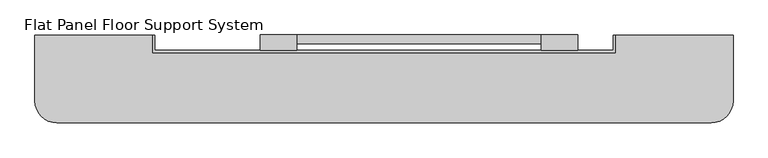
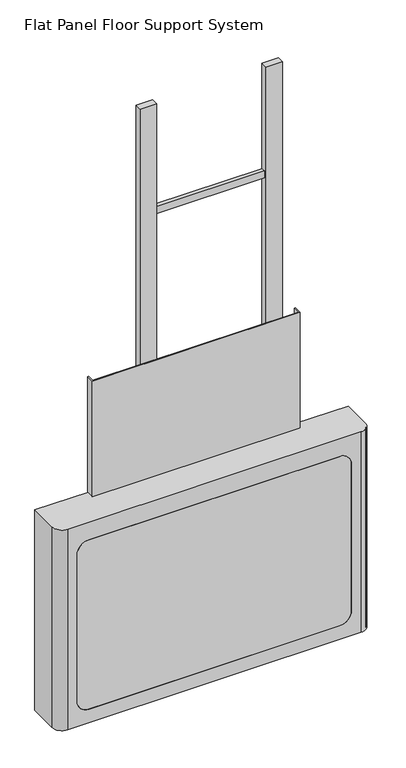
"""IFC4 building model written with IfcOpenShell, lengths in millimetres: proxy geometry, Flat_Panel_Mount-Chief-Floor_Support_System : Flat Panel Floor Support System."""

from ifc_helpers import new_model, si_unit, point, frame, frame_2d, origin, origin_with_axes, place, context, project, spatial, polyline, circle_curve, trimmed, segment, composite_curve, outline, extrude, source, transform, mapped, element, save
from ifc_brep_helpers import plane_surface, cylinder_surface, revolved_surface, advanced_brep


def flat_panel_floor_support_system_c9aacf25(model_context):
    return source(origin(), model_context, "Body", "SolidModel", [
        advanced_brep(
        [(-504.825, 0.0, 682.498), (-504.825, -95.25, 682.498), (-473.075, -127.0, 682.498), (473.075, -127.0, 682.498), (504.825, -95.25, 682.498), (504.825, 0.0, 682.498), (331.216, 0.0, 682.498), (331.216, -22.225, 682.498), (-331.216, -22.225, 682.498), (-331.216, 0.0, 682.498), (504.825, 0.0, 0.0), (504.825, -95.25, 0.0), (473.075, -127.0, 0.0), (-473.075, -127.0, 0.0), (-504.825, -95.25, 0.0), (-504.825, 0.0, 0.0), (-501.777, 0.0, 0.0), (-501.777, -95.25, 0.0), (-473.202, -123.825, 0.0), (473.202, -123.825, 0.0), (501.777, -95.25, 0.0), (501.777, 0.0, 0.0), (501.777, 0.0, 679.323), (331.216, 0.0, 679.323), (-331.216, 0.0, 679.323), (-501.777, 0.0, 679.323), (-403.86, -127.0, 623.062), (403.86, -127.0, 623.062), (441.96, -127.0, 584.962), (441.96, -127.0, 84.582), (403.86, -127.0, 46.482), (-403.86, -127.0, 46.482), (-441.96, -127.0, 84.582), (-441.96, -127.0, 584.962), (473.202, -123.825, 679.323), (-473.202, -123.825, 679.323), (-501.777, -95.25, 679.323), (-331.216, -22.225, 679.323), (331.216, -22.225, 679.323), (501.777, -95.25, 679.323), (403.86, -123.825, 623.062), (-403.86, -123.825, 623.062), (-441.96, -123.825, 584.962), (-441.96, -123.825, 84.582), (-403.86, -123.825, 46.482), (403.86, -123.825, 46.482), (441.96, -123.825, 84.582), (441.96, -123.825, 584.962)],
        [
            (0, 1),
            (1, 2, circle_curve(frame((-473.075, -95.25, 682.498), z_axis=(0.0, 0.0, 1.0), x_axis=(1.0, 0.0, 0.0)), 31.75)),
            (2, 3),
            (3, 4, circle_curve(frame((473.075, -95.25, 682.498), z_axis=(0.0, 0.0, 1.0), x_axis=(1.0, 0.0, 0.0)), 31.75)),
            (4, 5),
            (5, 6),
            (6, 7),
            (7, 8),
            (8, 9),
            (9, 0),
            (10, 11),
            (11, 12, circle_curve(frame((473.075, -95.25, 0.0), z_axis=(0.0, 0.0, -1.0), x_axis=(1.0, 0.0, 0.0)), 31.75)),
            (12, 13),
            (13, 14, circle_curve(frame((-473.075, -95.25, 0.0), z_axis=(0.0, 0.0, -1.0), x_axis=(1.0, 0.0, 0.0)), 31.75)),
            (14, 15),
            (15, 16),
            (16, 17),
            (17, 18, circle_curve(frame((-473.202, -95.25, 0.0), z_axis=(0.0, 0.0, 1.0), x_axis=(1.0, 0.0, 0.0)), 28.575)),
            (18, 19),
            (19, 20, circle_curve(frame((473.202, -95.25, 0.0), z_axis=(0.0, 0.0, 1.0), x_axis=(1.0, 0.0, 0.0)), 28.575)),
            (20, 21),
            (21, 10),
            (5, 10),
            (21, 22),
            (22, 23),
            (23, 6),
            (15, 0),
            (9, 24),
            (24, 25),
            (25, 16),
            (14, 1),
            (13, 2),
            (12, 3),
            (26, 27),
            (27, 28, circle_curve(frame((403.86, -127.0, 584.962), z_axis=(0.0, 1.0, 0.0), x_axis=(1.0, 0.0, 0.0)), 38.1)),
            (28, 29),
            (29, 30, circle_curve(frame((403.86, -127.0, 84.582), z_axis=(0.0, 1.0, 0.0), x_axis=(1.0, 0.0, 0.0)), 38.1)),
            (30, 31),
            (31, 32, circle_curve(frame((-403.86, -127.0, 84.582), z_axis=(0.0, 1.0, 0.0), x_axis=(1.0, 0.0, 0.0)), 38.1)),
            (32, 33),
            (33, 26, circle_curve(frame((-403.86, -127.0, 584.962), z_axis=(0.0, 1.0, 0.0), x_axis=(1.0, 0.0, 0.0)), 38.1)),
            (11, 4),
            (34, 35),
            (35, 36, circle_curve(frame((-473.202, -95.25, 679.323), z_axis=(0.0, 0.0, -1.0), x_axis=(1.0, 0.0, 0.0)), 28.575)),
            (36, 25),
            (24, 37),
            (37, 38),
            (38, 23),
            (22, 39),
            (39, 34, circle_curve(frame((473.202, -95.25, 679.323), z_axis=(0.0, 0.0, -1.0), x_axis=(1.0, 0.0, 0.0)), 28.575)),
            (39, 20),
            (19, 34),
            (36, 17),
            (35, 18),
            (40, 41),
            (41, 42, circle_curve(frame((-403.86, -123.825, 584.962), z_axis=(0.0, -1.0, 0.0), x_axis=(1.0, 0.0, 0.0)), 38.1)),
            (42, 43),
            (43, 44, circle_curve(frame((-403.86, -123.825, 84.582), z_axis=(0.0, -1.0, 0.0), x_axis=(1.0, 0.0, 0.0)), 38.1)),
            (44, 45),
            (45, 46, circle_curve(frame((403.86, -123.825, 84.582), z_axis=(0.0, -1.0, 0.0), x_axis=(1.0, 0.0, 0.0)), 38.1)),
            (46, 47),
            (47, 40, circle_curve(frame((403.86, -123.825, 584.962), z_axis=(0.0, -1.0, 0.0), x_axis=(1.0, 0.0, 0.0)), 38.1)),
            (26, 41),
            (40, 27),
            (33, 42),
            (32, 43),
            (31, 44),
            (30, 45),
            (29, 46),
            (28, 47),
            (8, 37),
            (7, 38),
        ],
        [
            plane_surface(frame((-504.825, 0.0, 682.498), z_axis=(0.0, 0.0, 1.0), x_axis=(-1.0, 0.0, 0.0))),
            plane_surface(frame((-504.825, 0.0, 0.0), z_axis=(0.0, 0.0, -1.0), x_axis=(1.0, 0.0, 0.0))),
            plane_surface(frame((504.825, 0.0, 682.498), z_axis=(0.0, 1.0, 0.0), x_axis=(0.0, 0.0, -1.0))),
            plane_surface(frame((-504.825, 0.0, 682.498), z_axis=(-1.0, 0.0, 0.0), x_axis=(0.0, 0.0, -1.0))),
            cylinder_surface(frame((-473.075, -95.25, 0.0), z_axis=(0.0, 0.0, 1.0), x_axis=(1.0, 0.0, 0.0)), 31.75),
            plane_surface(frame((-473.075, -127.0, 682.498), z_axis=(0.0, -1.0, 0.0), x_axis=(0.0, 0.0, -1.0))),
            cylinder_surface(frame((473.075, -95.25, 0.0), z_axis=(0.0, 0.0, 1.0), x_axis=(1.0, 0.0, 0.0)), 31.75),
            plane_surface(frame((504.825, -95.25, 682.498), z_axis=(1.0, 0.0, 0.0), x_axis=(0.0, 0.0, -1.0))),
            plane_surface(frame((501.777, -95.25, 679.323), z_axis=(0.0, 0.0, -1.0), x_axis=(0.0, 1.0, 0.0))),
            revolved_surface(polyline([(501.777, -95.25, 679.323), (501.777, -95.25, 0.0)]), (473.202, -95.25, 0.0), (0.0, 0.0, 1.0)),
            plane_surface(frame((501.777, -95.25, 679.323), z_axis=(-1.0, 0.0, 0.0), x_axis=(0.0, 0.0, -1.0))),
            plane_surface(frame((-501.777, 0.0, 679.323), z_axis=(1.0, 0.0, 0.0), x_axis=(0.0, 0.0, -1.0))),
            revolved_surface(polyline([(-444.627, -95.25, 679.323), (-444.627, -95.25, 0.0)]), (-473.202, -95.25, 0.0), (0.0, 0.0, 1.0)),
            plane_surface(frame((-473.202, -123.825, 679.323), z_axis=(0.0, 1.0, 0.0), x_axis=(0.0, 0.0, -1.0))),
            plane_surface(frame((403.86, -127.0, 623.062), z_axis=(0.0, 0.0, -1.0), x_axis=(0.0, 1.0, 0.0))),
            revolved_surface(polyline([(-365.76, -127.0, 584.962), (-365.76, -123.825, 584.962)]), (-403.86, -123.825, 584.962), (0.0, -1.0, 0.0)),
            plane_surface(frame((-441.96, -127.0, 584.962), z_axis=(1.0, 0.0, 0.0), x_axis=(0.0, 1.0, 0.0))),
            revolved_surface(polyline([(-365.76, -127.0, 84.582), (-365.76, -123.825, 84.582)]), (-403.86, -123.825, 84.582), (0.0, -1.0, 0.0)),
            plane_surface(frame((-403.86, -127.0, 46.482), z_axis=(0.0, 0.0, 1.0), x_axis=(0.0, 1.0, 0.0))),
            revolved_surface(polyline([(441.96000000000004, -127.0, 84.582), (441.96000000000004, -123.825, 84.582)]), (403.86, -123.825, 84.582), (0.0, -1.0, 0.0)),
            plane_surface(frame((441.96, -127.0, 84.582), z_axis=(-1.0, 0.0, 0.0), x_axis=(0.0, 1.0, 0.0))),
            revolved_surface(polyline([(441.96000000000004, -127.0, 584.962), (441.96000000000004, -123.825, 584.962)]), (403.86, -123.825, 584.962), (0.0, -1.0, 0.0)),
            plane_surface(frame((-331.216, 0.0, 682.498), z_axis=(1.0, 0.0, 0.0), x_axis=(0.0, 0.0, -1.0))),
            plane_surface(frame((-331.216, -22.225, 682.498), z_axis=(0.0, 1.0, 0.0), x_axis=(0.0, 0.0, -1.0))),
            plane_surface(frame((331.216, -22.225, 682.498), z_axis=(-1.0, 0.0, 0.0), x_axis=(0.0, 0.0, -1.0))),
        ],
        [
            (0, [[1, 2, 3, 4, 5, 6, 7, 8, 9, 10]]),
            (1, [[11, 12, 13, 14, 15, 16, 17, 18, 19, 20, 21, 22]]),
            (2, [[23, -22, 24, 25, 26, -6]]),
            (2, [[27, -10, 28, 29, 30, -16]]),
            (3, [[-1, -27, -15, 31]]),
            (4, [[-2, -31, -14, 32]]),
            (5, [[-3, -32, -13, 33], [34, 35, 36, 37, 38, 39, 40, 41]]),
            (6, [[-4, -33, -12, 42]]),
            (7, [[-5, -42, -11, -23]]),
            (8, [[43, 44, 45, -29, 46, 47, 48, -25, 49, 50]]),
            (9, [[-50, 51, -20, 52]]),
            (10, [[-49, -24, -21, -51]]),
            (11, [[-45, 53, -17, -30]]),
            (12, [[-44, 54, -18, -53]]),
            (13, [[-43, -52, -19, -54], [55, 56, 57, 58, 59, 60, 61, 62]]),
            (14, [[63, -55, 64, -34]]),
            (15, [[-63, -41, 65, -56]]),
            (16, [[-65, -40, 66, -57]]),
            (17, [[-66, -39, 67, -58]]),
            (18, [[-67, -38, 68, -59]]),
            (19, [[-68, -37, 69, -60]]),
            (20, [[-69, -36, 70, -61]]),
            (21, [[-64, -62, -70, -35]]),
            (22, [[71, -46, -28, -9]]),
            (23, [[-71, -8, 72, -47]]),
            (24, [[-72, -7, -26, -48]]),
        ],
    ),
        extrude(outline(polyline([(227.584, -12.7), (-125.984, -12.7), (-125.984, 0.0), (227.584, 0.0), (227.584, -12.7)])), frame((0.0, 0.0, 1563.624), z_axis=(0.0, 0.0, 1.0), x_axis=(1.0, 0.0, 0.0)), (0.0, 0.0, 1.0), 24.13),
        extrude(outline(polyline([(-331.216, 0.0), (-331.216, -22.225), (331.216, -22.225), (331.216, 0.0), (334.391, 0.0), (334.391, -25.4), (-334.391, -25.4), (-334.391, 0.0), (-331.216, 0.0)])), frame((0.0, 0.0, 682.498), z_axis=(0.0, 0.0, 1.0), x_axis=(1.0, 0.0, 0.0)), (0.0, 0.0, 1.0), 393.7),
        extrude(outline(polyline([(-125.984, 0.0), (-125.984, -22.225), (-178.816, -22.225), (-178.816, 0.0), (-125.984, 0.0)])), origin_with_axes(), (0.0, 0.0, 1.0), 1945.64),
        extrude(outline(polyline([(280.416, 0.0), (280.416, -22.225), (227.584, -22.225), (227.584, 0.0), (280.416, 0.0)])), origin_with_axes(), (0.0, 0.0, 1.0), 1945.64),
        extrude(outline(composite_curve([segment(polyline([(623.062, 403.86), (623.062, -403.86)]), True, "CONTINUOUS"), segment(trimmed(circle_curve(frame_2d((584.962, -403.86)), 38.1), [point((623.062, -403.86))], [point((584.962, -441.96))], False, "CARTESIAN"), True, "CONTINUOUS"), segment(polyline([(584.962, -441.96), (84.582, -441.96)]), True, "CONTINUOUS"), segment(trimmed(circle_curve(frame_2d((84.582, -403.86)), 38.1), [point((84.582, -441.96))], [point((46.482, -403.86))], False, "CARTESIAN"), True, "CONTINUOUS"), segment(polyline([(46.482, -403.86), (46.482, 403.86)]), True, "CONTINUOUS"), segment(trimmed(circle_curve(frame_2d((84.582, 403.86)), 38.1), [point((46.482, 403.86))], [point((84.582, 441.96))], False, "CARTESIAN"), True, "CONTINUOUS"), segment(polyline([(84.582, 441.96), (584.962, 441.96)]), True, "CONTINUOUS"), segment(trimmed(circle_curve(frame_2d((584.962, 403.86)), 38.1), [point((584.962, 441.96))], [point((623.062, 403.86))], False, "CARTESIAN"), True, "CONTINUOUS")], self_intersect=False)), frame((0.0, -127.0, 0.0), z_axis=(0.0, 1.0, 0.0), x_axis=(0.0, 0.0, 1.0)), (0.0, 0.0, 1.0), 3.175),
    ])


if __name__ == "__main__":
    model = new_model("IFC4")
    model_context = context("Model", 3, world=origin())
    ifc_project = project(units=[si_unit("LENGTHUNIT", "METRE", prefix="MILLI")], contexts=[model_context])
    site = spatial("IfcSite", under=ifc_project)
    building = spatial("IfcBuilding", under=site)
    placement = place(None, origin())
    flat_panel_floor_support_system_shape = flat_panel_floor_support_system_c9aacf25(model_context)
    element("IfcBuildingElementProxy", 1, Name="Flat_Panel_Mount-Chief-Floor_Support_System : Flat Panel Floor Support System", ObjectType="Flat_Panel_Mount-Chief-Floor_Support_System : Flat Panel Floor Support System", at=placement, inside=building, context=model_context, shape_type="MappedRepresentation", body=[
        mapped(flat_panel_floor_support_system_shape, transform((0.0, 0.0, 0.0), x_axis=(1.0, 0.0, 0.0), y_axis=(0.0, 1.0, 0.0), z_axis=(0.0, 0.0, 1.0))),
    ])
    save(model, "model.ifc")
